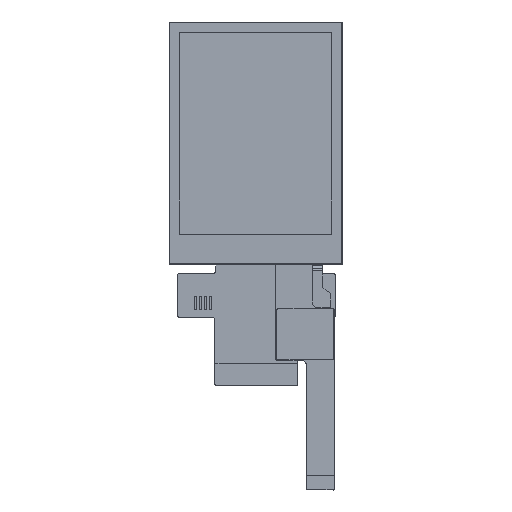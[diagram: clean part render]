
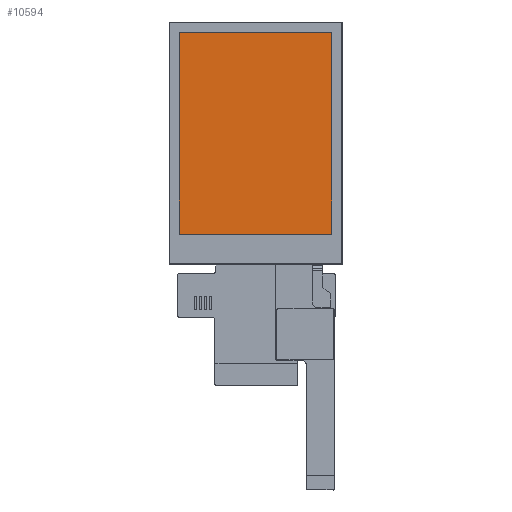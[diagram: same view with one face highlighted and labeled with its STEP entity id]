
A CAD part, top view. The second image highlights one B-rep face of the part: STEP entity #10594.
In plain terms, the highlighted planar face has unit normal (0, 0, 1).
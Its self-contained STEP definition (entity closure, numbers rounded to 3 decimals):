
#383 = DIRECTION ( 'NONE',  ( 0., -1., 0. ) ) ;
#2128 = VERTEX_POINT ( 'NONE', #14073 ) ;
#3744 = VECTOR ( 'NONE', #17274, 1000. ) ;
#3902 = CARTESIAN_POINT ( 'NONE',  ( 2.69, 37.719, 79.205 ) ) ;
#4632 = LINE ( 'NONE', #10936, #26773 ) ;
#5390 = CARTESIAN_POINT ( 'NONE',  ( 40.41, 87.679, 79.205 ) ) ;
#5579 = FACE_OUTER_BOUND ( 'NONE', #11728, .T. ) ;
#5845 = DIRECTION ( 'NONE',  ( 0., 0., 1. ) ) ;
#6476 = EDGE_CURVE ( 'NONE', #27197, #11622, #12605, .T. ) ;
#7717 = VECTOR ( 'NONE', #24270, 1000. ) ;
#7795 = CARTESIAN_POINT ( 'NONE',  ( 2.69, 87.679, 79.205 ) ) ;
#7927 = ORIENTED_EDGE ( 'NONE', *, *, #13579, .T. ) ;
#8303 = CARTESIAN_POINT ( 'NONE',  ( 40.41, 37.719, 79.205 ) ) ;
#9471 = EDGE_CURVE ( 'NONE', #2128, #25616, #26884, .T. ) ;
#10594 = ADVANCED_FACE ( 'NONE', ( #5579 ), #12138, .T. ) ;
#10936 = CARTESIAN_POINT ( 'NONE',  ( 2.69, 87.679, 79.205 ) ) ;
#10951 = CARTESIAN_POINT ( 'NONE',  ( 40.41, 87.679, 79.205 ) ) ;
#11622 = VERTEX_POINT ( 'NONE', #7795 ) ;
#11728 = EDGE_LOOP ( 'NONE', ( #26876, #23740, #19702, #7927 ) ) ;
#12138 = PLANE ( 'NONE',  #23060 ) ;
#12605 = LINE ( 'NONE', #10951, #3744 ) ;
#13579 = EDGE_CURVE ( 'NONE', #25616, #27197, #17966, .T. ) ;
#14073 = CARTESIAN_POINT ( 'NONE',  ( 2.69, 37.719, 79.205 ) ) ;
#14203 = DIRECTION ( 'NONE',  ( 1., 0., 0. ) ) ;
#16049 = DIRECTION ( 'NONE',  ( 0., 1., 0. ) ) ;
#17274 = DIRECTION ( 'NONE',  ( -1., 0., 0. ) ) ;
#17382 = EDGE_CURVE ( 'NONE', #11622, #2128, #4632, .T. ) ;
#17966 = LINE ( 'NONE', #8303, #22664 ) ;
#19038 = CARTESIAN_POINT ( 'NONE',  ( 40.41, 37.719, 79.205 ) ) ;
#19702 = ORIENTED_EDGE ( 'NONE', *, *, #9471, .T. ) ;
#22664 = VECTOR ( 'NONE', #16049, 1000. ) ;
#23060 = AXIS2_PLACEMENT_3D ( 'NONE', #24684, #5845, #14203 ) ;
#23740 = ORIENTED_EDGE ( 'NONE', *, *, #17382, .T. ) ;
#24270 = DIRECTION ( 'NONE',  ( 1., 0., 0. ) ) ;
#24684 = CARTESIAN_POINT ( 'NONE',  ( 21.55, 62.699, 79.205 ) ) ;
#25616 = VERTEX_POINT ( 'NONE', #19038 ) ;
#26773 = VECTOR ( 'NONE', #383, 1000. ) ;
#26876 = ORIENTED_EDGE ( 'NONE', *, *, #6476, .T. ) ;
#26884 = LINE ( 'NONE', #3902, #7717 ) ;
#27197 = VERTEX_POINT ( 'NONE', #5390 ) ;
